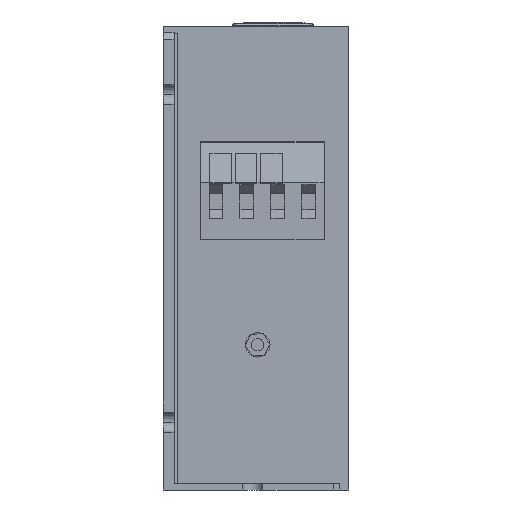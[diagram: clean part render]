
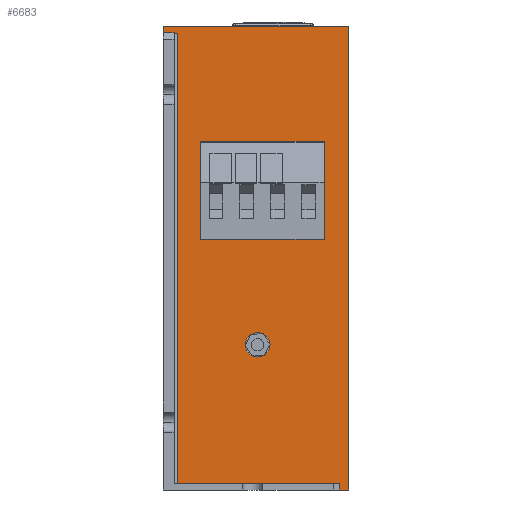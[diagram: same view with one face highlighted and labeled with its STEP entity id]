
A CAD part, front view. The second image highlights one B-rep face of the part: STEP entity #6683.
In plain terms, the highlighted planar face has unit normal (0, -1, 0).
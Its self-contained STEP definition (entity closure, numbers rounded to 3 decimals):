
#6 = CARTESIAN_POINT ( 'NONE',  ( 57., -246., -150. ) ) ;
#30 = EDGE_CURVE ( 'NONE', #5827, #3306, #3421, .T. ) ;
#80 = CARTESIAN_POINT ( 'NONE',  ( 57., -246., -150. ) ) ;
#171 = VERTEX_POINT ( 'NONE', #6456 ) ;
#208 = LINE ( 'NONE', #2211, #1978 ) ;
#461 = AXIS2_PLACEMENT_3D ( 'NONE', #3847, #1507, #2780 ) ;
#473 = CIRCLE ( 'NONE', #5840, 3.95 ) ;
#479 = DIRECTION ( 'NONE',  ( -1., 0., 0. ) ) ;
#538 = DIRECTION ( 'NONE',  ( 1., 0., 0. ) ) ;
#683 = ORIENTED_EDGE ( 'NONE', *, *, #2632, .F. ) ;
#713 = VERTEX_POINT ( 'NONE', #2127 ) ;
#796 = CARTESIAN_POINT ( 'NONE',  ( 52.052, -246., -37.269 ) ) ;
#899 = VERTEX_POINT ( 'NONE', #4992 ) ;
#1024 = LINE ( 'NONE', #1765, #3884 ) ;
#1039 = ORIENTED_EDGE ( 'NONE', *, *, #4083, .T. ) ;
#1060 = CARTESIAN_POINT ( 'NONE',  ( 60., -246., 0. ) ) ;
#1132 = VERTEX_POINT ( 'NONE', #2807 ) ;
#1251 = LINE ( 'NONE', #3753, #3098 ) ;
#1374 = EDGE_CURVE ( 'NONE', #7172, #6817, #3189, .T. ) ;
#1386 = ORIENTED_EDGE ( 'NONE', *, *, #7138, .T. ) ;
#1397 = ORIENTED_EDGE ( 'NONE', *, *, #2630, .F. ) ;
#1507 = DIRECTION ( 'NONE',  ( 0., -1., 0. ) ) ;
#1534 = CIRCLE ( 'NONE', #461, 3.95 ) ;
#1608 = EDGE_CURVE ( 'NONE', #7107, #7172, #1251, .T. ) ;
#1765 = CARTESIAN_POINT ( 'NONE',  ( 60., -246., 0. ) ) ;
#1769 = FACE_OUTER_BOUND ( 'NONE', #6519, .T. ) ;
#1774 = EDGE_LOOP ( 'NONE', ( #6741, #3290 ) ) ;
#1816 = LINE ( 'NONE', #3738, #3359 ) ;
#1852 = DIRECTION ( 'NONE',  ( -1., 0., 0. ) ) ;
#1859 = EDGE_LOOP ( 'NONE', ( #7024, #1397, #2721, #3160 ) ) ;
#1978 = VECTOR ( 'NONE', #7177, 1000. ) ;
#2127 = CARTESIAN_POINT ( 'NONE',  ( 0., -246., 0. ) ) ;
#2134 = ORIENTED_EDGE ( 'NONE', *, *, #2867, .T. ) ;
#2189 = VECTOR ( 'NONE', #5910, 1000. ) ;
#2211 = CARTESIAN_POINT ( 'NONE',  ( 1.5, -246., -2.2 ) ) ;
#2228 = LINE ( 'NONE', #4717, #6857 ) ;
#2337 = LINE ( 'NONE', #4821, #2966 ) ;
#2425 = LINE ( 'NONE', #8045, #7299 ) ;
#2466 = FACE_BOUND ( 'NONE', #1859, .T. ) ;
#2619 = AXIS2_PLACEMENT_3D ( 'NONE', #7514, #4958, #1852 ) ;
#2630 = EDGE_CURVE ( 'NONE', #4166, #3306, #1816, .T. ) ;
#2632 = EDGE_CURVE ( 'NONE', #6817, #171, #3084, .T. ) ;
#2678 = CARTESIAN_POINT ( 'NONE',  ( 12.072, -246., -68.769 ) ) ;
#2721 = ORIENTED_EDGE ( 'NONE', *, *, #5586, .F. ) ;
#2780 = DIRECTION ( 'NONE',  ( -1., 0., 0. ) ) ;
#2807 = CARTESIAN_POINT ( 'NONE',  ( 26.55, -246., -103. ) ) ;
#2867 = EDGE_CURVE ( 'NONE', #7107, #713, #1024, .T. ) ;
#2945 = LINE ( 'NONE', #5516, #7479 ) ;
#2966 = VECTOR ( 'NONE', #4217, 1000. ) ;
#3001 = EDGE_CURVE ( 'NONE', #7499, #1132, #1534, .T. ) ;
#3044 = VERTEX_POINT ( 'NONE', #7667 ) ;
#3078 = FACE_BOUND ( 'NONE', #1774, .T. ) ;
#3084 = LINE ( 'NONE', #6, #5437 ) ;
#3098 = VECTOR ( 'NONE', #3102, 1000. ) ;
#3102 = DIRECTION ( 'NONE',  ( 0., 0., -1. ) ) ;
#3160 = ORIENTED_EDGE ( 'NONE', *, *, #4395, .F. ) ;
#3189 = LINE ( 'NONE', #5065, #5834 ) ;
#3290 = ORIENTED_EDGE ( 'NONE', *, *, #3001, .F. ) ;
#3306 = VERTEX_POINT ( 'NONE', #5664 ) ;
#3359 = VECTOR ( 'NONE', #4428, 1000. ) ;
#3411 = CARTESIAN_POINT ( 'NONE',  ( 1.5, -246., -2. ) ) ;
#3421 = LINE ( 'NONE', #5217, #6762 ) ;
#3464 = EDGE_CURVE ( 'NONE', #899, #4937, #2228, .T. ) ;
#3664 = LINE ( 'NONE', #5541, #3917 ) ;
#3738 = CARTESIAN_POINT ( 'NONE',  ( 32.072, -246., -37.269 ) ) ;
#3753 = CARTESIAN_POINT ( 'NONE',  ( 60., -246., -150. ) ) ;
#3847 = CARTESIAN_POINT ( 'NONE',  ( 30.5, -246., -103. ) ) ;
#3884 = VECTOR ( 'NONE', #4790, 1000. ) ;
#3917 = VECTOR ( 'NONE', #6658, 1000. ) ;
#4083 = EDGE_CURVE ( 'NONE', #713, #6732, #2337, .T. ) ;
#4084 = EDGE_CURVE ( 'NONE', #1132, #7499, #473, .T. ) ;
#4097 = CARTESIAN_POINT ( 'NONE',  ( 52.052, -246., -68.769 ) ) ;
#4105 = LINE ( 'NONE', #3411, #2189 ) ;
#4111 = DIRECTION ( 'NONE',  ( 0., 0., -1. ) ) ;
#4166 = VERTEX_POINT ( 'NONE', #796 ) ;
#4204 = EDGE_CURVE ( 'NONE', #5717, #3044, #6868, .T. ) ;
#4217 = DIRECTION ( 'NONE',  ( 0., 0., -1. ) ) ;
#4374 = EDGE_CURVE ( 'NONE', #6732, #899, #4105, .T. ) ;
#4395 = EDGE_CURVE ( 'NONE', #5827, #4721, #2425, .T. ) ;
#4428 = DIRECTION ( 'NONE',  ( -1., 0., 0. ) ) ;
#4604 = ORIENTED_EDGE ( 'NONE', *, *, #1608, .F. ) ;
#4662 = VECTOR ( 'NONE', #4983, 1000. ) ;
#4717 = CARTESIAN_POINT ( 'NONE',  ( 3.5, -246., -3. ) ) ;
#4721 = VERTEX_POINT ( 'NONE', #4097 ) ;
#4790 = DIRECTION ( 'NONE',  ( -1., 0., 0. ) ) ;
#4821 = CARTESIAN_POINT ( 'NONE',  ( 0., -246., 0. ) ) ;
#4874 = PLANE ( 'NONE',  #2619 ) ;
#4903 = DIRECTION ( 'NONE',  ( -1., 0., 0. ) ) ;
#4937 = VERTEX_POINT ( 'NONE', #6922 ) ;
#4958 = DIRECTION ( 'NONE',  ( 0., 1., 0. ) ) ;
#4983 = DIRECTION ( 'NONE',  ( 0., 0., -1. ) ) ;
#4992 = CARTESIAN_POINT ( 'NONE',  ( 3.5, -246., -2. ) ) ;
#5065 = CARTESIAN_POINT ( 'NONE',  ( 348.125, -246., -150. ) ) ;
#5217 = CARTESIAN_POINT ( 'NONE',  ( 12.072, -246., -71.919 ) ) ;
#5258 = DIRECTION ( 'NONE',  ( 0., 0., 1. ) ) ;
#5285 = ORIENTED_EDGE ( 'NONE', *, *, #4204, .T. ) ;
#5437 = VECTOR ( 'NONE', #5653, 1000. ) ;
#5516 = CARTESIAN_POINT ( 'NONE',  ( 0., -246., -147.9 ) ) ;
#5541 = CARTESIAN_POINT ( 'NONE',  ( 52.052, -246., -248.449 ) ) ;
#5586 = EDGE_CURVE ( 'NONE', #4721, #4166, #3664, .T. ) ;
#5653 = DIRECTION ( 'NONE',  ( 0., 0., 1. ) ) ;
#5660 = CARTESIAN_POINT ( 'NONE',  ( 4.5, -246., -2.2 ) ) ;
#5664 = CARTESIAN_POINT ( 'NONE',  ( 12.072, -246., -37.269 ) ) ;
#5717 = VERTEX_POINT ( 'NONE', #5660 ) ;
#5746 = CARTESIAN_POINT ( 'NONE',  ( 4.5, -246., -3. ) ) ;
#5827 = VERTEX_POINT ( 'NONE', #2678 ) ;
#5834 = VECTOR ( 'NONE', #4903, 1000. ) ;
#5840 = AXIS2_PLACEMENT_3D ( 'NONE', #7824, #6714, #479 ) ;
#5910 = DIRECTION ( 'NONE',  ( 1., 0., 0. ) ) ;
#6084 = ORIENTED_EDGE ( 'NONE', *, *, #7645, .F. ) ;
#6111 = CARTESIAN_POINT ( 'NONE',  ( 0., -246., -2. ) ) ;
#6360 = ORIENTED_EDGE ( 'NONE', *, *, #1374, .F. ) ;
#6456 = CARTESIAN_POINT ( 'NONE',  ( 57., -246., -147.9 ) ) ;
#6519 = EDGE_LOOP ( 'NONE', ( #5285, #1386, #683, #6360, #4604, #2134, #1039, #8018, #8015, #6084 ) ) ;
#6658 = DIRECTION ( 'NONE',  ( 0., 0., 1. ) ) ;
#6683 = ADVANCED_FACE ( 'NONE', ( #3078, #2466, #1769 ), #4874, .F. ) ;
#6714 = DIRECTION ( 'NONE',  ( 0., -1., 0. ) ) ;
#6732 = VERTEX_POINT ( 'NONE', #6111 ) ;
#6741 = ORIENTED_EDGE ( 'NONE', *, *, #4084, .F. ) ;
#6762 = VECTOR ( 'NONE', #5258, 1000. ) ;
#6817 = VERTEX_POINT ( 'NONE', #80 ) ;
#6857 = VECTOR ( 'NONE', #4111, 1000. ) ;
#6868 = LINE ( 'NONE', #5746, #4662 ) ;
#6922 = CARTESIAN_POINT ( 'NONE',  ( 3.5, -246., -2.2 ) ) ;
#7024 = ORIENTED_EDGE ( 'NONE', *, *, #30, .T. ) ;
#7048 = CARTESIAN_POINT ( 'NONE',  ( 60., -246., -150. ) ) ;
#7107 = VERTEX_POINT ( 'NONE', #1060 ) ;
#7138 = EDGE_CURVE ( 'NONE', #3044, #171, #2945, .T. ) ;
#7172 = VERTEX_POINT ( 'NONE', #7048 ) ;
#7177 = DIRECTION ( 'NONE',  ( -1., 0., 0. ) ) ;
#7270 = CARTESIAN_POINT ( 'NONE',  ( 34.45, -246., -103. ) ) ;
#7299 = VECTOR ( 'NONE', #538, 1000. ) ;
#7479 = VECTOR ( 'NONE', #8035, 1000. ) ;
#7499 = VERTEX_POINT ( 'NONE', #7270 ) ;
#7514 = CARTESIAN_POINT ( 'NONE',  ( 58., -246., -3. ) ) ;
#7645 = EDGE_CURVE ( 'NONE', #5717, #4937, #208, .T. ) ;
#7667 = CARTESIAN_POINT ( 'NONE',  ( 4.5, -246., -147.9 ) ) ;
#7824 = CARTESIAN_POINT ( 'NONE',  ( 30.5, -246., -103. ) ) ;
#8015 = ORIENTED_EDGE ( 'NONE', *, *, #3464, .T. ) ;
#8018 = ORIENTED_EDGE ( 'NONE', *, *, #4374, .T. ) ;
#8035 = DIRECTION ( 'NONE',  ( 1., 0., 0. ) ) ;
#8045 = CARTESIAN_POINT ( 'NONE',  ( 32.072, -246., -68.769 ) ) ;
